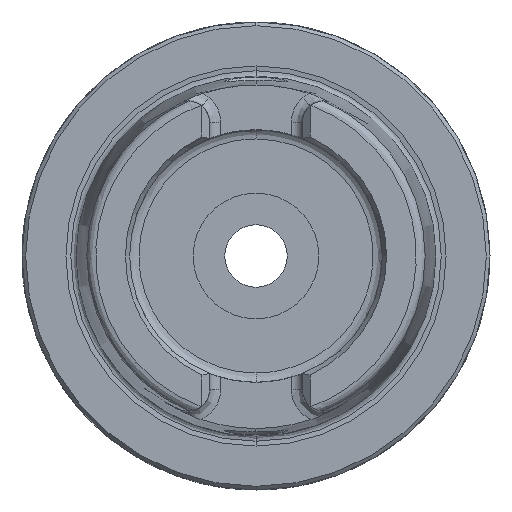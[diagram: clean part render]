
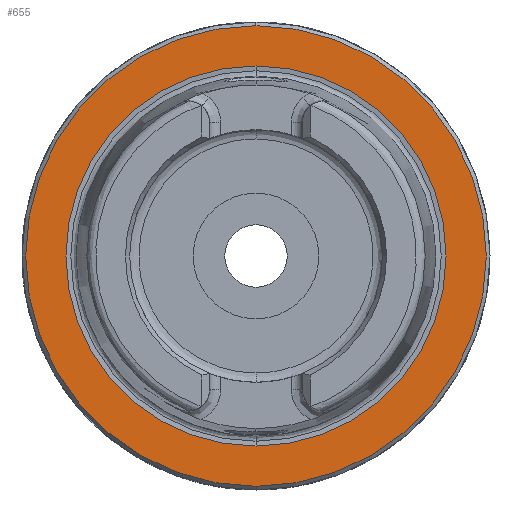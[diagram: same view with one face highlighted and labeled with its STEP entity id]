
A CAD part, left-side view. The second image highlights one B-rep face of the part: STEP entity #655.
In plain terms, the highlighted planar face has unit normal (-1, 0, 0).
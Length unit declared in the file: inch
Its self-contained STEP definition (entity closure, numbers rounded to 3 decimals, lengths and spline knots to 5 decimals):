
#103 = CARTESIAN_POINT ( 'NONE',  ( 0., 0., -1.22047 ) ) ;
#402 = CARTESIAN_POINT ( 'NONE',  ( 0., 0., 0. ) ) ;
#655 = ADVANCED_FACE ( 'NONE', ( #7317, #6561 ), #7976, .T. ) ;
#896 = EDGE_CURVE ( 'NONE', #2807, #1518, #6665, .T. ) ;
#1517 = CIRCLE ( 'NONE', #8316, 1.0074 ) ;
#1518 = VERTEX_POINT ( 'NONE', #5437 ) ;
#1816 = DIRECTION ( 'NONE',  ( 1., 0., 0. ) ) ;
#1826 = CARTESIAN_POINT ( 'NONE',  ( 0., 0., -1.0074 ) ) ;
#1919 = DIRECTION ( 'NONE',  ( 0., 0., -1. ) ) ;
#1958 = AXIS2_PLACEMENT_3D ( 'NONE', #402, #1816, #6824 ) ;
#2096 = CIRCLE ( 'NONE', #7947, 1.22047 ) ;
#2183 = DIRECTION ( 'NONE',  ( 0., 0., -1. ) ) ;
#2807 = VERTEX_POINT ( 'NONE', #103 ) ;
#2902 = ORIENTED_EDGE ( 'NONE', *, *, #5638, .F. ) ;
#3154 = EDGE_LOOP ( 'NONE', ( #3904, #7353 ) ) ;
#3388 = AXIS2_PLACEMENT_3D ( 'NONE', #3405, #7938, #4085 ) ;
#3405 = CARTESIAN_POINT ( 'NONE',  ( 0., 1.22047, 0. ) ) ;
#3567 = DIRECTION ( 'NONE',  ( 0., 0., 1. ) ) ;
#3904 = ORIENTED_EDGE ( 'NONE', *, *, #6250, .T. ) ;
#3944 = CARTESIAN_POINT ( 'NONE',  ( 0., 0., 0. ) ) ;
#4085 = DIRECTION ( 'NONE',  ( 0., 0., 1. ) ) ;
#4122 = CARTESIAN_POINT ( 'NONE',  ( 0., 0., 0. ) ) ;
#4573 = DIRECTION ( 'NONE',  ( 1., 0., 0. ) ) ;
#5273 = DIRECTION ( 'NONE',  ( 1., 0., 0. ) ) ;
#5310 = AXIS2_PLACEMENT_3D ( 'NONE', #7181, #5273, #2183 ) ;
#5437 = CARTESIAN_POINT ( 'NONE',  ( 0., 0., 1.22047 ) ) ;
#5518 = EDGE_CURVE ( 'NONE', #6723, #7689, #8352, .T. ) ;
#5609 = EDGE_LOOP ( 'NONE', ( #8255, #2902 ) ) ;
#5638 = EDGE_CURVE ( 'NONE', #1518, #2807, #2096, .T. ) ;
#5659 = CARTESIAN_POINT ( 'NONE',  ( 0., 0., 1.0074 ) ) ;
#6250 = EDGE_CURVE ( 'NONE', #7689, #6723, #1517, .T. ) ;
#6561 = FACE_OUTER_BOUND ( 'NONE', #5609, .T. ) ;
#6665 = CIRCLE ( 'NONE', #5310, 1.22047 ) ;
#6723 = VERTEX_POINT ( 'NONE', #1826 ) ;
#6824 = DIRECTION ( 'NONE',  ( 0., 0., 1. ) ) ;
#7181 = CARTESIAN_POINT ( 'NONE',  ( 0., 0., 0. ) ) ;
#7317 = FACE_BOUND ( 'NONE', #3154, .T. ) ;
#7353 = ORIENTED_EDGE ( 'NONE', *, *, #5518, .T. ) ;
#7532 = DIRECTION ( 'NONE',  ( 1., 0., 0. ) ) ;
#7689 = VERTEX_POINT ( 'NONE', #5659 ) ;
#7938 = DIRECTION ( 'NONE',  ( -1., 0., 0. ) ) ;
#7947 = AXIS2_PLACEMENT_3D ( 'NONE', #3944, #4573, #1919 ) ;
#7976 = PLANE ( 'NONE',  #3388 ) ;
#8255 = ORIENTED_EDGE ( 'NONE', *, *, #896, .F. ) ;
#8316 = AXIS2_PLACEMENT_3D ( 'NONE', #4122, #7532, #3567 ) ;
#8352 = CIRCLE ( 'NONE', #1958, 1.0074 ) ;
